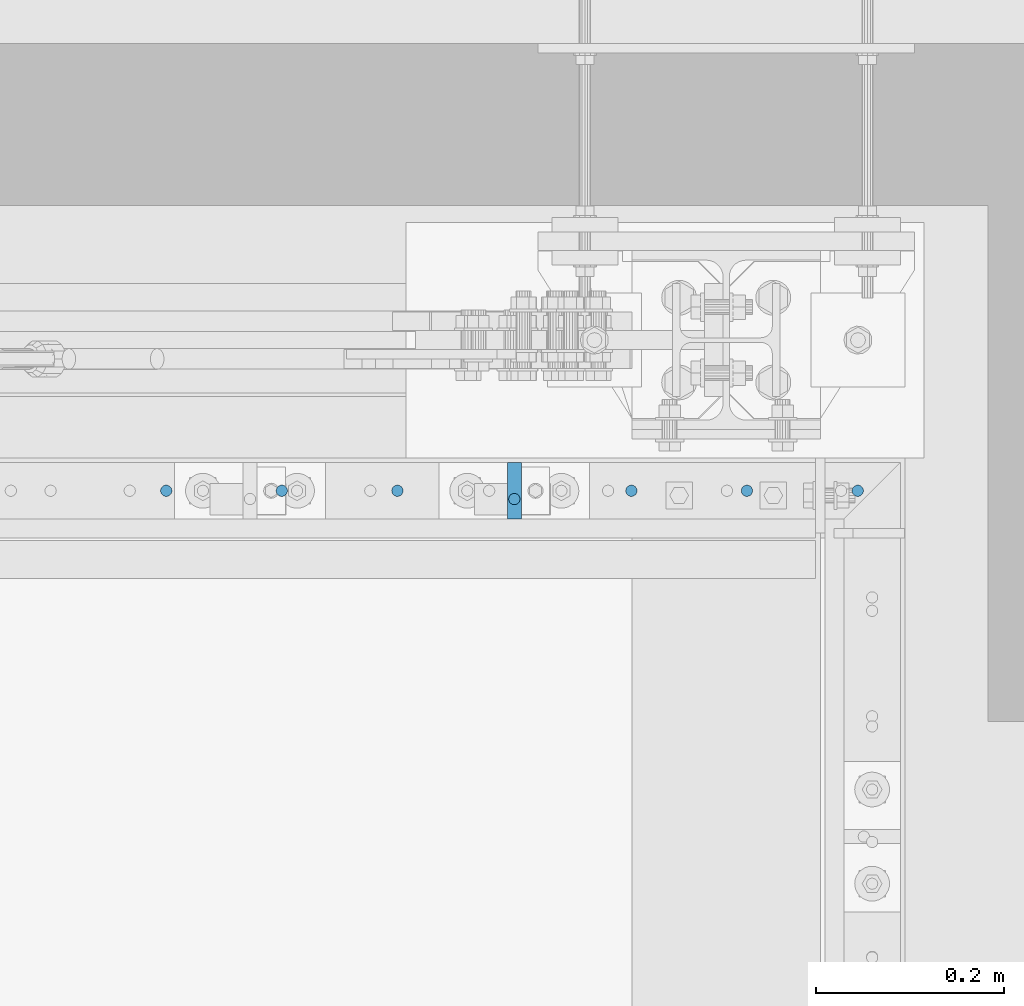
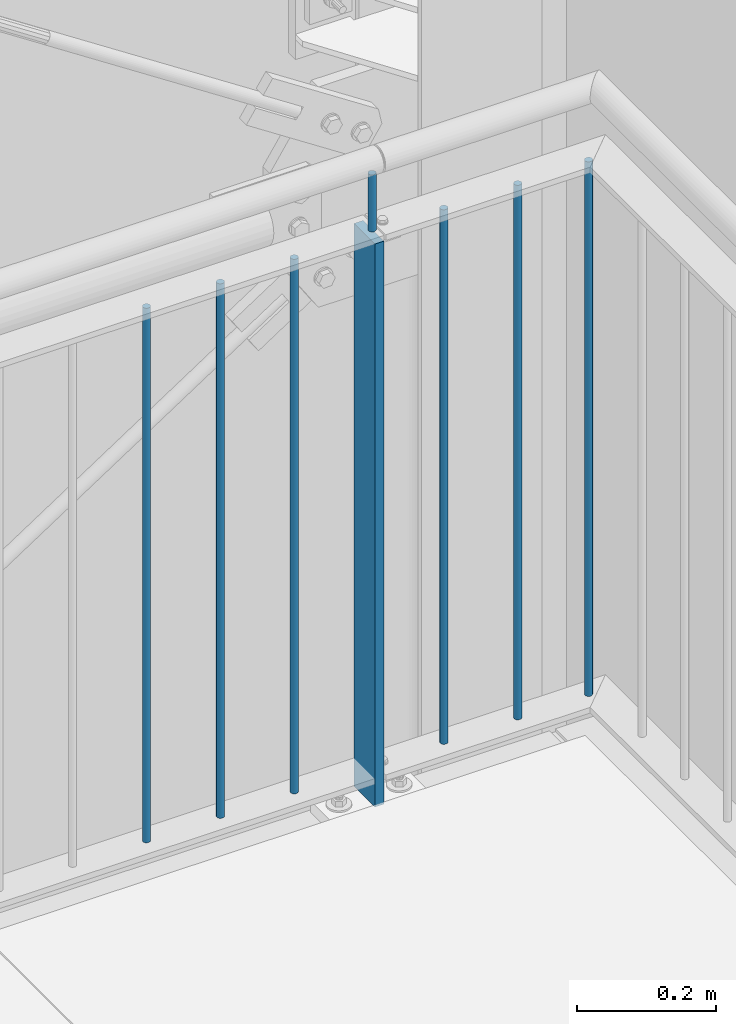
# One storey, part 114 of 831: 8 columns.
"""IFC2X3 building model written with IfcOpenShell, lengths in millimetres."""

from ifc_helpers import new_model, entity, si_unit, converted_unit, frame, origin, origin_with_axes, origin_2d, place, context, project, spatial, rectangle, circle, extrude, clip, halfspace, material, element, save


model = new_model("IFC2X3")

# Units and contexts
model_context = context("Model", 3, precision=1e-09, world=origin_with_axes())
ifc_project = project(units=[si_unit("LENGTHUNIT", "METRE", prefix="MILLI"), si_unit("AREAUNIT", "SQUARE_METRE"), si_unit("VOLUMEUNIT", "CUBIC_METRE"), converted_unit("PLANEANGLEUNIT", "DEGREE", entity("IfcPlaneAngleMeasure", 0.01745329), si_unit("PLANEANGLEUNIT", "RADIAN"), dimensions=[0, 0, 0, 0, 0, 0, 0])], contexts=[model_context])

# Site, building, storey
site_placement = place(None, origin_with_axes())
site = spatial("IfcSite", under=ifc_project, at=site_placement, Name="Site", CompositionType="ELEMENT")
building_placement = place(site_placement, origin_with_axes())
building = spatial("IfcBuilding", under=site, at=building_placement, Name="Struktur 1", CompositionType="ELEMENT")
storey_placement = place(building_placement, origin_with_axes())
storey = spatial("IfcBuildingStorey", under=building, at=storey_placement, Name="Default Storey", CompositionType="ELEMENT", Elevation=0.0)

# Columns
ifc_material = material(Name="S235JR")
column_1_placement = place(None, frame((8641.713974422, 7356.736971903, 12305.223292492), z_axis=(0.0, 0.0, 1.0), x_axis=(1.0, 0.0, 0.0)))
element("IfcColumn", 1, at=column_1_placement, inside=storey, material=ifc_material, Name="Railing_Post_Landing#4", ObjectType="Railing_Post_Landing#4", context=model_context, shape_type="Clipping", body=[
    clip(clip(extrude(rectangle(XDim=15.0, YDim=60.0, at=origin_2d()), origin(), (0.0, 0.0, -1.0), 1070.646584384), halfspace(frame((-8641.713974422, -7356.736971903, -1019.722292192), z_axis=(0.0, 0.0, 1.0), x_axis=(1.0, 0.0, 0.0)), True)), halfspace(frame((-8641.713974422, -7356.736971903, -30.924292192), z_axis=(0.0, 0.0, -1.0), x_axis=(-1.0, 0.0, 0.0)), True)),
])
column_2_placement = place(None, frame((8271.963926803, 7356.736971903, 12287.785281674), z_axis=(0.0, 0.0, 1.0), x_axis=(1.0, 0.0, 0.0)))
element("IfcColumn", 2, at=column_2_placement, inside=storey, material=ifc_material, Name="Railing_Picket_Landing#25", ObjectType="Railing_Picket_Landing#25", context=model_context, shape_type="Clipping", body=[
    clip(clip(extrude(circle(Radius=6.0, at=origin_2d()), origin(), (0.0, 0.0, -1.0), 965.770562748), halfspace(frame((-8271.963926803, -7356.736971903, -13.486281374), z_axis=(0.0, 0.0, -1.0), x_axis=(-1.0, 0.0, 0.0)), True)), halfspace(frame((-8271.963926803, -7356.736971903, -952.284281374), z_axis=(0.0, 0.0, 1.0), x_axis=(1.0, 0.0, 0.0)), True)),
])
column_3_placement = place(None, frame((8394.713950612, 7356.736971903, 12287.785281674), z_axis=(0.0, 0.0, 1.0), x_axis=(1.0, 0.0, 0.0)))
element("IfcColumn", 3, at=column_3_placement, inside=storey, material=ifc_material, Name="Railing_Picket_Landing#26", ObjectType="Railing_Picket_Landing#26", context=model_context, shape_type="Clipping", body=[
    clip(clip(extrude(circle(Radius=6.0, at=origin_2d()), origin(), (0.0, 0.0, -1.0), 965.770562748), halfspace(frame((-8394.713950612, -7356.736971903, -13.486281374), z_axis=(0.0, 0.0, -1.0), x_axis=(-1.0, 0.0, 0.0)), True)), halfspace(frame((-8394.713950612, -7356.736971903, -952.284281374), z_axis=(0.0, 0.0, 1.0), x_axis=(1.0, 0.0, 0.0)), True)),
])
column_4_placement = place(None, frame((8517.463974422, 7356.736971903, 12287.785281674), z_axis=(0.0, 0.0, 1.0), x_axis=(1.0, 0.0, 0.0)))
element("IfcColumn", 4, at=column_4_placement, inside=storey, material=ifc_material, Name="Railing_Picket_Landing#27", ObjectType="Railing_Picket_Landing#27", context=model_context, shape_type="Clipping", body=[
    clip(clip(extrude(circle(Radius=6.0, at=origin_2d()), origin(), (0.0, 0.0, -1.0), 965.770562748), halfspace(frame((-8517.463974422, -7356.736971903, -13.486281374), z_axis=(0.0, 0.0, -1.0), x_axis=(-1.0, 0.0, 0.0)), True)), halfspace(frame((-8517.463974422, -7356.736971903, -952.284281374), z_axis=(0.0, 0.0, 1.0), x_axis=(1.0, 0.0, 0.0)), True)),
])
column_5_placement = place(None, frame((8765.963974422, 7356.736971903, 12287.785281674), z_axis=(0.0, 0.0, 1.0), x_axis=(1.0, 0.0, 0.0)))
element("IfcColumn", 5, at=column_5_placement, inside=storey, material=ifc_material, Name="Railing_Picket_Landing#28", ObjectType="Railing_Picket_Landing#28", context=model_context, shape_type="Clipping", body=[
    clip(clip(extrude(circle(Radius=6.0, at=origin_2d()), origin(), (0.0, 0.0, -1.0), 965.770562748), halfspace(frame((-8765.963974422, -7356.736971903, -13.486281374), z_axis=(0.0, 0.0, -1.0), x_axis=(-1.0, 0.0, 0.0)), True)), halfspace(frame((-8765.963974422, -7356.736971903, -952.284281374), z_axis=(0.0, 0.0, 1.0), x_axis=(1.0, 0.0, 0.0)), True)),
])
column_6_placement = place(None, frame((8888.713998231, 7356.736971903, 12287.785281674), z_axis=(0.0, 0.0, 1.0), x_axis=(1.0, 0.0, 0.0)))
element("IfcColumn", 6, at=column_6_placement, inside=storey, material=ifc_material, Name="Railing_Picket_Landing#29", ObjectType="Railing_Picket_Landing#29", context=model_context, shape_type="Clipping", body=[
    clip(clip(extrude(circle(Radius=6.0, at=origin_2d()), origin(), (0.0, 0.0, -1.0), 965.770562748), halfspace(frame((-8888.713998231, -7356.736971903, -13.486281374), z_axis=(0.0, 0.0, -1.0), x_axis=(-1.0, 0.0, 0.0)), True)), halfspace(frame((-8888.713998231, -7356.736971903, -952.284281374), z_axis=(0.0, 0.0, 1.0), x_axis=(1.0, 0.0, 0.0)), True)),
])
column_7_placement = place(None, frame((9006.464022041, 7356.736971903, 12287.785281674), z_axis=(0.0, 0.0, 1.0), x_axis=(1.0, 0.0, 0.0)))
element("IfcColumn", 7, at=column_7_placement, inside=storey, material=ifc_material, Name="Railing_Picket_Landing#30", ObjectType="Railing_Picket_Landing#30", context=model_context, shape_type="Clipping", body=[
    clip(clip(extrude(circle(Radius=6.0, at=origin_2d()), origin(), (0.0, 0.0, -1.0), 965.770562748), halfspace(frame((-9006.464022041, -7356.736971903, -13.486281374), z_axis=(0.0, 0.0, -1.0), x_axis=(-1.0, 0.0, 0.0)), True)), halfspace(frame((-9006.464022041, -7356.736971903, -952.284281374), z_axis=(0.0, 0.0, 1.0), x_axis=(1.0, 0.0, 0.0)), True)),
])
column_8_placement = place(None, frame((8641.713974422, 7347.936971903, 12392.785281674), z_axis=(0.0, 0.0, 1.0), x_axis=(0.0, -1.0, 0.0)))
element("IfcColumn", 8, at=column_8_placement, inside=storey, material=ifc_material, Name="Bar#4", ObjectType="Bar#4", context=model_context, shape_type="Clipping", body=[
    clip(clip(extrude(circle(Radius=6.0, at=origin_2d()), origin(), (0.0, 0.0, -1.0), 116.970562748), halfspace(frame((7347.936971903, -8641.713974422, -8.486281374), z_axis=(0.0, 0.0, -1.0), x_axis=(0.0, -1.0, 0.0)), True)), halfspace(frame((7347.936971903, -8641.713974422, -108.484281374), z_axis=(0.0, 0.0, 1.0), x_axis=(0.0, 1.0, 0.0)), True)),
])

save(model, "model.ifc")
